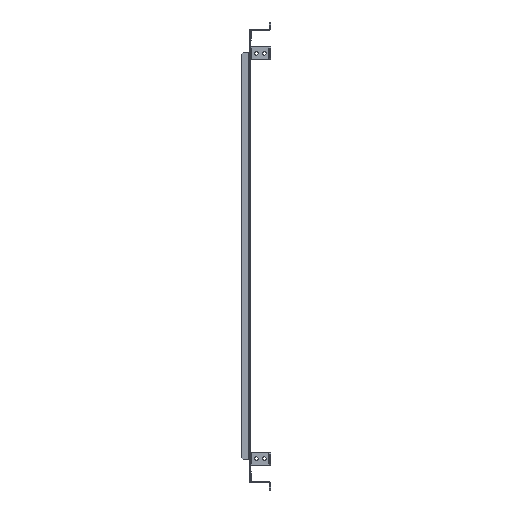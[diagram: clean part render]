
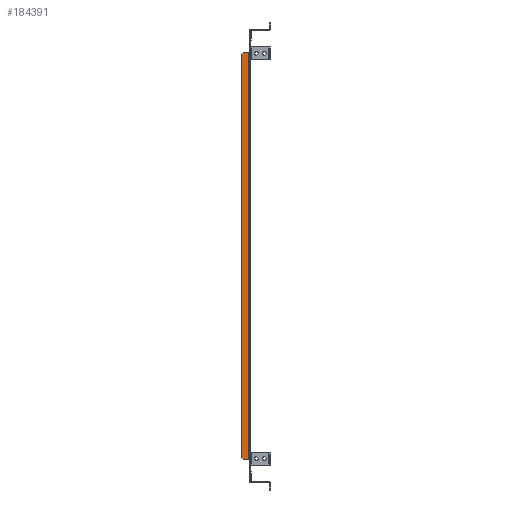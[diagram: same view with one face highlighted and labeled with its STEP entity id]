
A CAD part, left-side view. The second image highlights one B-rep face of the part: STEP entity #184391.
In plain terms, the highlighted planar face has unit normal (-1, 0, 0).
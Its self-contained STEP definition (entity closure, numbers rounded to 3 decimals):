
#182476=CARTESIAN_POINT(' ',(-43.,9.,-314.5));
#182481=DIRECTION(' ',(0.,-1.,0.));
#182486=VECTOR(' ',#182481,1.);
#182491=LINE('',#182476,#182486);
#182496=CARTESIAN_POINT(' ',(-43.,9.,-314.5));
#182497=VERTEX_POINT(' ',#182496);
#182501=CARTESIAN_POINT(' ',(-43.,0.6,-314.5));
#182502=VERTEX_POINT(' ',#182501);
#182506=EDGE_CURVE(' ',#182497,#182502,#182491,.T.);
#182886=CARTESIAN_POINT(' ',(-43.,9.,314.5));
#182887=VERTEX_POINT(' ',#182886);
#182901=CARTESIAN_POINT(' ',(-43.,9.,314.5));
#182906=DIRECTION(' ',(0.,-1.,0.));
#182911=VECTOR(' ',#182906,1.);
#182916=LINE('',#182901,#182911);
#182921=CARTESIAN_POINT(' ',(-43.,0.6,314.5));
#182922=VERTEX_POINT(' ',#182921);
#182926=EDGE_CURVE(' ',#182887,#182922,#182916,.T.);
#184181=CARTESIAN_POINT(' ',(-43.,0.6,314.5));
#184186=DIRECTION(' ',(0.,0.,-1.));
#184191=VECTOR(' ',#184186,1.);
#184196=LINE('',#184181,#184191);
#184201=EDGE_CURVE(' ',#182922,#182502,#184196,.T.);
#184241=DIRECTION(' ',(-1.,-0.,0.));
#184246=CARTESIAN_POINT(' ',(-43.,0.6,314.5));
#184251=DIRECTION(' ',(0.,1.,0.));
#184256=AXIS2_PLACEMENT_3D(' ',#184246,#184241,#184251);
#184261=PLANE('NONE',#184256);
#184266=CARTESIAN_POINT(' ',(-43.,12.,311.5));
#184271=DIRECTION(' ',(0.,0.,-1.));
#184276=VECTOR(' ',#184271,1.);
#184281=LINE('',#184266,#184276);
#184286=CARTESIAN_POINT(' ',(-43.,12.,311.5));
#184287=VERTEX_POINT(' ',#184286);
#184291=CARTESIAN_POINT(' ',(-43.,12.,-311.5));
#184292=VERTEX_POINT(' ',#184291);
#184296=EDGE_CURVE(' ',#184287,#184292,#184281,.T.);
#184301=ORIENTED_EDGE(' ',*,*,#184296,.T.);
#184306=CARTESIAN_POINT(' ',(-43.,12.,-311.5));
#184311=DIRECTION(' ',(0.,-0.707,-0.707));
#184316=VECTOR(' ',#184311,1.);
#184321=LINE('',#184306,#184316);
#184326=EDGE_CURVE(' ',#184292,#182497,#184321,.T.);
#184331=ORIENTED_EDGE(' ',*,*,#184326,.T.);
#184336=ORIENTED_EDGE(' ',*,*,#182506,.T.);
#184341=ORIENTED_EDGE(' ',*,*,#184201,.F.);
#184346=ORIENTED_EDGE(' ',*,*,#182926,.F.);
#184351=CARTESIAN_POINT(' ',(-43.,9.,314.5));
#184356=DIRECTION(' ',(0.,0.707,-0.707));
#184361=VECTOR(' ',#184356,1.);
#184366=LINE('',#184351,#184361);
#184371=EDGE_CURVE(' ',#182887,#184287,#184366,.T.);
#184376=ORIENTED_EDGE(' ',*,*,#184371,.T.);
#184381=EDGE_LOOP(' ',(#184301,#184331,#184336,#184341,#184346,#184376));
#184386=FACE_OUTER_BOUND(' ',#184381,.T.);
#184391=ADVANCED_FACE('NONE',(#184386),#184261,.T.);
